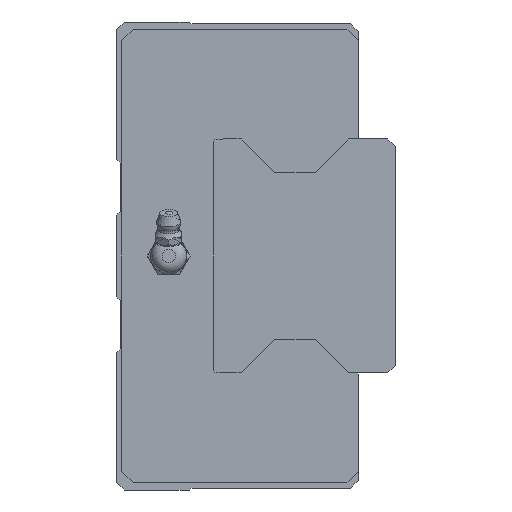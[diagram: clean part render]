
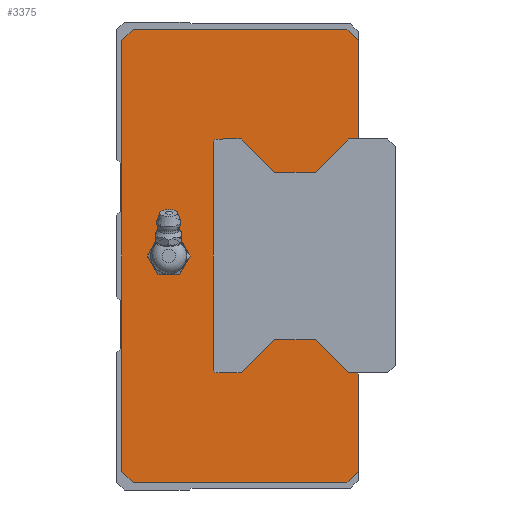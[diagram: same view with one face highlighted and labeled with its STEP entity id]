
A CAD part, left-side view. The second image highlights one B-rep face of the part: STEP entity #3375.
In plain terms, the highlighted planar face has unit normal (-1, 0, 0).
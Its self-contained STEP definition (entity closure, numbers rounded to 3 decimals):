
#226=CIRCLE('',#3700,4.864);
#227=CIRCLE('',#3701,1.);
#228=CIRCLE('',#3702,1.);
#665=ORIENTED_EDGE('',*,*,#1371,.T.);
#666=ORIENTED_EDGE('',*,*,#1372,.T.);
#667=ORIENTED_EDGE('',*,*,#1364,.F.);
#668=ORIENTED_EDGE('',*,*,#1292,.F.);
#669=ORIENTED_EDGE('',*,*,#1288,.F.);
#670=ORIENTED_EDGE('',*,*,#1280,.F.);
#671=ORIENTED_EDGE('',*,*,#1356,.F.);
#672=ORIENTED_EDGE('',*,*,#1265,.F.);
#673=ORIENTED_EDGE('',*,*,#1303,.F.);
#674=ORIENTED_EDGE('',*,*,#1300,.F.);
#675=ORIENTED_EDGE('',*,*,#1366,.F.);
#676=ORIENTED_EDGE('',*,*,#1373,.T.);
#677=ORIENTED_EDGE('',*,*,#1374,.T.);
#678=ORIENTED_EDGE('',*,*,#1375,.T.);
#679=ORIENTED_EDGE('',*,*,#1376,.T.);
#680=ORIENTED_EDGE('',*,*,#1377,.T.);
#681=ORIENTED_EDGE('',*,*,#1378,.T.);
#682=ORIENTED_EDGE('',*,*,#1379,.T.);
#683=ORIENTED_EDGE('',*,*,#1380,.T.);
#684=ORIENTED_EDGE('',*,*,#1381,.T.);
#685=ORIENTED_EDGE('',*,*,#1382,.T.);
#686=ORIENTED_EDGE('',*,*,#1383,.T.);
#687=ORIENTED_EDGE('',*,*,#1384,.T.);
#688=ORIENTED_EDGE('',*,*,#1385,.T.);
#689=ORIENTED_EDGE('',*,*,#1386,.T.);
#690=ORIENTED_EDGE('',*,*,#1387,.T.);
#691=ORIENTED_EDGE('',*,*,#1388,.T.);
#1265=EDGE_CURVE('',#1676,#1677,#1956,.T.);
#1280=EDGE_CURVE('',#1691,#1692,#1971,.T.);
#1288=EDGE_CURVE('',#1692,#1698,#1978,.T.);
#1292=EDGE_CURVE('',#1698,#1700,#1982,.T.);
#1300=EDGE_CURVE('',#1707,#1708,#1990,.T.);
#1303=EDGE_CURVE('',#1708,#1676,#1993,.T.);
#1356=EDGE_CURVE('',#1677,#1691,#2043,.T.);
#1364=EDGE_CURVE('',#1700,#1747,#2051,.T.);
#1366=EDGE_CURVE('',#1750,#1707,#2053,.T.);
#1371=EDGE_CURVE('',#1754,#1754,#226,.T.);
#1372=EDGE_CURVE('',#1755,#1747,#2058,.T.);
#1373=EDGE_CURVE('',#1750,#1756,#2059,.T.);
#1374=EDGE_CURVE('',#1756,#1757,#2060,.T.);
#1375=EDGE_CURVE('',#1757,#1758,#2061,.T.);
#1376=EDGE_CURVE('',#1758,#1759,#2062,.T.);
#1377=EDGE_CURVE('',#1759,#1760,#2063,.T.);
#1378=EDGE_CURVE('',#1760,#1761,#2064,.T.);
#1379=EDGE_CURVE('',#1761,#1762,#2065,.T.);
#1380=EDGE_CURVE('',#1762,#1763,#227,.T.);
#1381=EDGE_CURVE('',#1763,#1764,#2066,.T.);
#1382=EDGE_CURVE('',#1764,#1765,#228,.T.);
#1383=EDGE_CURVE('',#1765,#1766,#2067,.T.);
#1384=EDGE_CURVE('',#1766,#1767,#2068,.T.);
#1385=EDGE_CURVE('',#1767,#1768,#2069,.T.);
#1386=EDGE_CURVE('',#1768,#1769,#2070,.T.);
#1387=EDGE_CURVE('',#1769,#1770,#2071,.T.);
#1388=EDGE_CURVE('',#1770,#1755,#2072,.T.);
#1676=VERTEX_POINT('',#5136);
#1677=VERTEX_POINT('',#5138);
#1691=VERTEX_POINT('',#5167);
#1692=VERTEX_POINT('',#5169);
#1698=VERTEX_POINT('',#5185);
#1700=VERTEX_POINT('',#5192);
#1707=VERTEX_POINT('',#5207);
#1708=VERTEX_POINT('',#5209);
#1747=VERTEX_POINT('',#5322);
#1750=VERTEX_POINT('',#5332);
#1754=VERTEX_POINT('',#5343);
#1755=VERTEX_POINT('',#5345);
#1756=VERTEX_POINT('',#5347);
#1757=VERTEX_POINT('',#5349);
#1758=VERTEX_POINT('',#5351);
#1759=VERTEX_POINT('',#5353);
#1760=VERTEX_POINT('',#5355);
#1761=VERTEX_POINT('',#5357);
#1762=VERTEX_POINT('',#5359);
#1763=VERTEX_POINT('',#5361);
#1764=VERTEX_POINT('',#5363);
#1765=VERTEX_POINT('',#5365);
#1766=VERTEX_POINT('',#5367);
#1767=VERTEX_POINT('',#5369);
#1768=VERTEX_POINT('',#5371);
#1769=VERTEX_POINT('',#5373);
#1770=VERTEX_POINT('',#5375);
#1956=LINE('',#5137,#2236);
#1971=LINE('',#5168,#2251);
#1978=LINE('',#5184,#2258);
#1982=LINE('',#5191,#2262);
#1990=LINE('',#5208,#2270);
#1993=LINE('',#5213,#2273);
#2043=LINE('',#5315,#2323);
#2051=LINE('',#5329,#2331);
#2053=LINE('',#5334,#2333);
#2058=LINE('',#5344,#2338);
#2059=LINE('',#5346,#2339);
#2060=LINE('',#5348,#2340);
#2061=LINE('',#5350,#2341);
#2062=LINE('',#5352,#2342);
#2063=LINE('',#5354,#2343);
#2064=LINE('',#5356,#2344);
#2065=LINE('',#5358,#2345);
#2066=LINE('',#5362,#2346);
#2067=LINE('',#5366,#2347);
#2068=LINE('',#5368,#2348);
#2069=LINE('',#5370,#2349);
#2070=LINE('',#5372,#2350);
#2071=LINE('',#5374,#2351);
#2072=LINE('',#5376,#2352);
#2236=VECTOR('',#4218,1000.);
#2251=VECTOR('',#4235,1000.);
#2258=VECTOR('',#4248,1000.);
#2262=VECTOR('',#4254,1000.);
#2270=VECTOR('',#4264,1000.);
#2273=VECTOR('',#4269,1000.);
#2323=VECTOR('',#4349,1000.);
#2331=VECTOR('',#4361,1000.);
#2333=VECTOR('',#4365,1000.);
#2338=VECTOR('',#4374,1000.);
#2339=VECTOR('',#4375,1000.);
#2340=VECTOR('',#4376,1000.);
#2341=VECTOR('',#4377,1000.);
#2342=VECTOR('',#4378,1000.);
#2343=VECTOR('',#4379,1000.);
#2344=VECTOR('',#4380,1000.);
#2345=VECTOR('',#4381,1000.);
#2346=VECTOR('',#4384,1000.);
#2347=VECTOR('',#4387,1000.);
#2348=VECTOR('',#4388,1000.);
#2349=VECTOR('',#4389,1000.);
#2350=VECTOR('',#4390,1000.);
#2351=VECTOR('',#4391,1000.);
#2352=VECTOR('',#4392,1000.);
#2642=EDGE_LOOP('',(#665));
#2643=EDGE_LOOP('',(#666,#667,#668,#669,#670,#671,#672,#673,#674,#675,#676,
#677,#678,#679,#680,#681,#682,#683,#684,#685,#686,#687,#688,#689,#690,#691));
#2983=FACE_BOUND('',#2642,.T.);
#2984=FACE_BOUND('',#2643,.T.);
#3207=PLANE('',#3699);
#3375=ADVANCED_FACE('',(#2983,#2984),#3207,.F.);
#3699=AXIS2_PLACEMENT_3D('',#5341,#4370,#4371);
#3700=AXIS2_PLACEMENT_3D('',#5342,#4372,#4373);
#3701=AXIS2_PLACEMENT_3D('',#5360,#4382,#4383);
#3702=AXIS2_PLACEMENT_3D('',#5364,#4385,#4386);
#4218=DIRECTION('',(0.,0.707,0.707));
#4235=DIRECTION('',(0.,-0.707,0.707));
#4248=DIRECTION('',(0.,-1.,0.));
#4254=DIRECTION('',(0.,-0.707,-0.707));
#4264=DIRECTION('',(0.,0.707,-0.707));
#4269=DIRECTION('',(0.,1.,0.));
#4349=DIRECTION('',(0.,0.,1.));
#4361=DIRECTION('',(0.,0.,-1.));
#4365=DIRECTION('',(0.,0.,-1.));
#4370=DIRECTION('',(1.,0.,0.));
#4371=DIRECTION('',(0.,0.,-1.));
#4372=DIRECTION('',(1.,0.,0.));
#4373=DIRECTION('',(0.,0.,-1.));
#4374=DIRECTION('',(0.,-1.,0.));
#4375=DIRECTION('',(0.,1.,0.));
#4376=DIRECTION('',(0.,0.707,0.707));
#4377=DIRECTION('',(0.,1.,0.));
#4378=DIRECTION('',(0.,0.707,-0.707));
#4379=DIRECTION('',(0.,1.,0.));
#4380=DIRECTION('',(0.,0.707,0.707));
#4381=DIRECTION('',(0.,1.,0.));
#4382=DIRECTION('',(1.,0.,0.));
#4383=DIRECTION('',(0.,0.,-1.));
#4384=DIRECTION('',(0.,0.,1.));
#4385=DIRECTION('',(1.,0.,0.));
#4386=DIRECTION('',(0.,0.,-1.));
#4387=DIRECTION('',(0.,-1.,0.));
#4388=DIRECTION('',(0.,-0.707,0.707));
#4389=DIRECTION('',(0.,-1.,0.));
#4390=DIRECTION('',(0.,-0.707,-0.707));
#4391=DIRECTION('',(0.,-1.,0.));
#4392=DIRECTION('',(0.,-0.707,0.707));
#5136=CARTESIAN_POINT('',(-151.5,60.6,-61.));
#5137=CARTESIAN_POINT('',(-151.5,60.6,-61.));
#5138=CARTESIAN_POINT('',(-151.5,63.6,-58.));
#5167=CARTESIAN_POINT('',(-151.5,63.6,58.));
#5168=CARTESIAN_POINT('',(-151.5,63.6,58.));
#5169=CARTESIAN_POINT('',(-151.5,60.6,61.));
#5184=CARTESIAN_POINT('',(-151.5,60.6,61.));
#5185=CARTESIAN_POINT('',(-151.5,3.,61.));
#5191=CARTESIAN_POINT('',(-151.5,3.,61.));
#5192=CARTESIAN_POINT('',(-151.5,0.,58.));
#5207=CARTESIAN_POINT('',(-151.5,0.,-58.));
#5208=CARTESIAN_POINT('',(-151.5,0.,-58.));
#5209=CARTESIAN_POINT('',(-151.5,3.,-61.));
#5213=CARTESIAN_POINT('',(-151.5,3.,-61.));
#5315=CARTESIAN_POINT('',(-151.5,63.6,-58.));
#5322=CARTESIAN_POINT('',(-151.5,0.,31.5));
#5329=CARTESIAN_POINT('',(-151.5,0.,58.));
#5332=CARTESIAN_POINT('',(-151.5,0.,-31.5));
#5334=CARTESIAN_POINT('',(-151.5,0.,58.));
#5341=CARTESIAN_POINT('',(-151.5,0.,0.));
#5342=CARTESIAN_POINT('',(-151.5,51.,0.));
#5343=CARTESIAN_POINT('',(-151.5,51.,-4.864));
#5344=CARTESIAN_POINT('',(-151.5,2.5,31.5));
#5345=CARTESIAN_POINT('',(-151.5,2.5,31.5));
#5346=CARTESIAN_POINT('',(-151.5,-8.,-31.5));
#5347=CARTESIAN_POINT('',(-151.5,2.5,-31.5));
#5348=CARTESIAN_POINT('',(-151.5,2.5,-31.5));
#5349=CARTESIAN_POINT('',(-151.5,11.5,-22.5));
#5350=CARTESIAN_POINT('',(-151.5,11.5,-22.5));
#5351=CARTESIAN_POINT('',(-151.5,22.5,-22.5));
#5352=CARTESIAN_POINT('',(-151.5,22.5,-22.5));
#5353=CARTESIAN_POINT('',(-151.5,31.5,-31.5));
#5354=CARTESIAN_POINT('',(-151.5,31.5,-31.5));
#5355=CARTESIAN_POINT('',(-151.5,36.26,-31.5));
#5356=CARTESIAN_POINT('',(-151.5,36.26,-31.5));
#5357=CARTESIAN_POINT('',(-151.5,36.51,-31.25));
#5358=CARTESIAN_POINT('',(-151.5,36.51,-31.25));
#5359=CARTESIAN_POINT('',(-151.5,37.339,-31.25));
#5360=CARTESIAN_POINT('',(-151.5,38.,-30.5));
#5361=CARTESIAN_POINT('',(-151.5,39.,-30.5));
#5362=CARTESIAN_POINT('',(-151.5,39.,-30.5));
#5363=CARTESIAN_POINT('',(-151.5,39.,30.5));
#5364=CARTESIAN_POINT('',(-151.5,38.,30.5));
#5365=CARTESIAN_POINT('',(-151.5,37.339,31.25));
#5366=CARTESIAN_POINT('',(-151.5,37.339,31.25));
#5367=CARTESIAN_POINT('',(-151.5,36.51,31.25));
#5368=CARTESIAN_POINT('',(-151.5,36.51,31.25));
#5369=CARTESIAN_POINT('',(-151.5,36.26,31.5));
#5370=CARTESIAN_POINT('',(-151.5,36.26,31.5));
#5371=CARTESIAN_POINT('',(-151.5,31.5,31.5));
#5372=CARTESIAN_POINT('',(-151.5,31.5,31.5));
#5373=CARTESIAN_POINT('',(-151.5,22.5,22.5));
#5374=CARTESIAN_POINT('',(-151.5,22.5,22.5));
#5375=CARTESIAN_POINT('',(-151.5,11.5,22.5));
#5376=CARTESIAN_POINT('',(-151.5,11.5,22.5));
